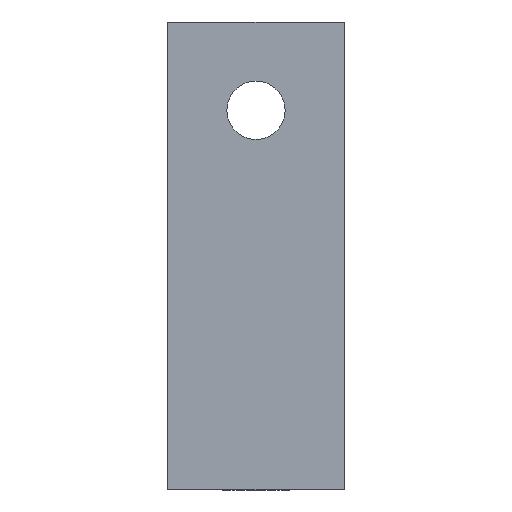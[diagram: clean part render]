
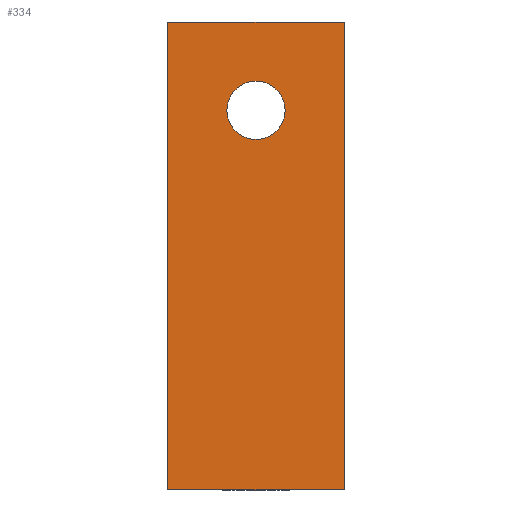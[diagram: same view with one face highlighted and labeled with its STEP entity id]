
A CAD part, front view. The second image highlights one B-rep face of the part: STEP entity #334.
In plain terms, the highlighted planar face has unit normal (0, -1, 0).
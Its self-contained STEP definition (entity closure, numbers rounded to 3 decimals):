
#13 = CIRCLE ( 'NONE', #1093, 3.3 ) ;
#20 = FACE_BOUND ( 'NONE', #477, .T. ) ;
#61 = DIRECTION ( 'NONE',  ( 0., 0., 1. ) ) ;
#63 = ORIENTED_EDGE ( 'NONE', *, *, #812, .T. ) ;
#64 = CARTESIAN_POINT ( 'NONE',  ( -10., 0., 53. ) ) ;
#108 = LINE ( 'NONE', #598, #359 ) ;
#134 = CARTESIAN_POINT ( 'NONE',  ( 0., 0., 39.7 ) ) ;
#183 = DIRECTION ( 'NONE',  ( -1., 0., 0. ) ) ;
#184 = CARTESIAN_POINT ( 'NONE',  ( -10., 0., 0. ) ) ;
#244 = CARTESIAN_POINT ( 'NONE',  ( 10., 0., 53. ) ) ;
#269 = AXIS2_PLACEMENT_3D ( 'NONE', #544, #1293, #656 ) ;
#272 = EDGE_CURVE ( 'NONE', #289, #304, #383, .T. ) ;
#286 = CARTESIAN_POINT ( 'NONE',  ( -10., 0., 53. ) ) ;
#289 = VERTEX_POINT ( 'NONE', #286 ) ;
#304 = VERTEX_POINT ( 'NONE', #184 ) ;
#315 = FACE_OUTER_BOUND ( 'NONE', #1206, .T. ) ;
#329 = PLANE ( 'NONE',  #269 ) ;
#334 = ADVANCED_FACE ( 'NONE', ( #20, #315 ), #329, .F. ) ;
#359 = VECTOR ( 'NONE', #183, 1000. ) ;
#383 = LINE ( 'NONE', #64, #630 ) ;
#407 = ORIENTED_EDGE ( 'NONE', *, *, #1221, .F. ) ;
#430 = AXIS2_PLACEMENT_3D ( 'NONE', #1344, #716, #61 ) ;
#477 = EDGE_LOOP ( 'NONE', ( #496, #63 ) ) ;
#484 = VERTEX_POINT ( 'NONE', #134 ) ;
#485 = VERTEX_POINT ( 'NONE', #244 ) ;
#496 = ORIENTED_EDGE ( 'NONE', *, *, #879, .T. ) ;
#507 = ORIENTED_EDGE ( 'NONE', *, *, #928, .T. ) ;
#544 = CARTESIAN_POINT ( 'NONE',  ( 10., 0., 53. ) ) ;
#551 = VERTEX_POINT ( 'NONE', #885 ) ;
#598 = CARTESIAN_POINT ( 'NONE',  ( 10., 0., 0. ) ) ;
#604 = VECTOR ( 'NONE', #1043, 1000. ) ;
#607 = CARTESIAN_POINT ( 'NONE',  ( 0., 0., 46.3 ) ) ;
#630 = VECTOR ( 'NONE', #1345, 1000. ) ;
#631 = CARTESIAN_POINT ( 'NONE',  ( 0., 0., 43. ) ) ;
#656 = DIRECTION ( 'NONE',  ( 0., 0., 1. ) ) ;
#689 = VECTOR ( 'NONE', #894, 1000. ) ;
#690 = CARTESIAN_POINT ( 'NONE',  ( 10., 0., 53. ) ) ;
#716 = DIRECTION ( 'NONE',  ( 0., 1., 0. ) ) ;
#749 = DIRECTION ( 'NONE',  ( 0., 0., 1. ) ) ;
#812 = EDGE_CURVE ( 'NONE', #484, #1378, #13, .T. ) ;
#849 = ORIENTED_EDGE ( 'NONE', *, *, #272, .T. ) ;
#879 = EDGE_CURVE ( 'NONE', #1378, #484, #921, .T. ) ;
#882 = EDGE_CURVE ( 'NONE', #551, #304, #108, .T. ) ;
#885 = CARTESIAN_POINT ( 'NONE',  ( 10., 0., 0. ) ) ;
#894 = DIRECTION ( 'NONE',  ( 0., 0., -1. ) ) ;
#921 = CIRCLE ( 'NONE', #430, 3.3 ) ;
#927 = CARTESIAN_POINT ( 'NONE',  ( 10., 0., 53. ) ) ;
#928 = EDGE_CURVE ( 'NONE', #485, #289, #1169, .T. ) ;
#963 = LINE ( 'NONE', #690, #689 ) ;
#971 = ORIENTED_EDGE ( 'NONE', *, *, #882, .F. ) ;
#1043 = DIRECTION ( 'NONE',  ( -1., 0., 0. ) ) ;
#1093 = AXIS2_PLACEMENT_3D ( 'NONE', #631, #1373, #749 ) ;
#1169 = LINE ( 'NONE', #927, #604 ) ;
#1206 = EDGE_LOOP ( 'NONE', ( #849, #971, #407, #507 ) ) ;
#1221 = EDGE_CURVE ( 'NONE', #485, #551, #963, .T. ) ;
#1293 = DIRECTION ( 'NONE',  ( 0., 1., 0. ) ) ;
#1344 = CARTESIAN_POINT ( 'NONE',  ( 0., 0., 43. ) ) ;
#1345 = DIRECTION ( 'NONE',  ( 0., 0., -1. ) ) ;
#1373 = DIRECTION ( 'NONE',  ( 0., 1., 0. ) ) ;
#1378 = VERTEX_POINT ( 'NONE', #607 ) ;
